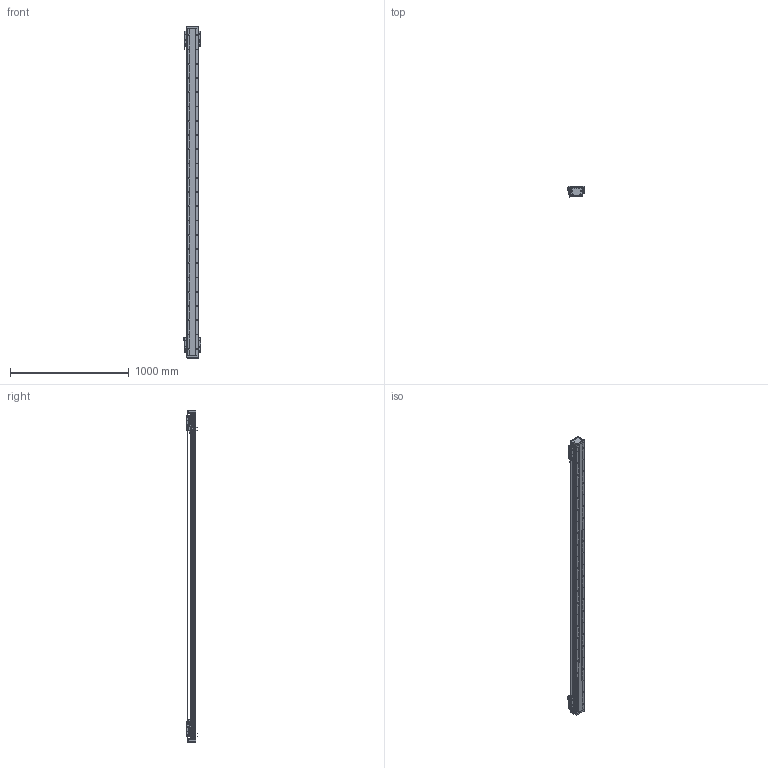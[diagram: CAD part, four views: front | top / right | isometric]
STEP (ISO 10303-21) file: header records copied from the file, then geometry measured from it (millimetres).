
FILE_DESCRIPTION (( 'STEP AP203' ), '1' );
FILE_NAME ('DA-B95-2-B15-T2420-C010-0.2 直线电机.STEP', '2023-05-06T06:39:43', ( '微软用户' ), ( '微软中国' ), 'SwSTEP 2.0', 'SolidWorks 2019', '' );
FILE_SCHEMA (( 'CONFIG_CONTROL_DESIGN' ));
Length unit declared in the file: millimetre
Products named in the file (34): 复件 DKW-GYP-ZJ-00 中间光电感应片^DA-A95-B15-T-C010-0.2-N 直线电机; LMDK-2-R001-V5-L02-C1-F00，0.2M 读数头^DA-A95-B15-T-C010-0.2-N 直线电机_DMA-010-0.2; 66245-BU95-V 幗紩賑怢; PM-T45 光电开关^DA-A95-B15-T-C010-0.2-N 直线电机; IU-BU95-L-00 菁釱_L2760; 复件 复件 18252-0001-002-00 钢带垫块^DA-A95-B15-T-C010-0.2-N 直线电机; 66245-BU95-V-00 珨极趙賑雄怢啣; 复件 六角薄螺母 M3^DA-A95-B15-T-C010-0.2-N 直线电机_GB_FASTENER_NUT_STNAB M3-C; 葩璃 DA95-B15-DP-A-00 菜えA^66245-BU95-V 幗紩賑怢; 复件 DKW-KGZ-ZJ-00 中间光电开关支架^DA-A95-B15-T-C010-0.2-N 直线电机; 葩璃 BKM015-W060-C1-TP-DA-0.2^DA-A95-B15-T-C010-0.2-N 眻盄萇儂; IU-BU95-L 菁釱絳寢; 复件 DA95-MFP-01 密封片^66245-BU95-V 滚珠滑台; 复件 DA95-B15-YB-B-00 压板B^66245-BU95-V 滚珠滑台; DA-B95-2-B15-T2420-C010-0.2 眻盄萇儂; 复件 DA95-HK-GT-00 滑块钢轨^66245-BU95-V-00 一体化滑动台板; 复件 DA95-B15-YB-A-00 压板A^66245-BU95-V 滚珠滑台; 复件 DKW-HXJ-JY-00 缓冲橡胶^DA-A95-B15-T-C010-0.2-N 直线电机; 复件 复件 18252-0001-004-00 钢带端盖^DA-A95-B15-T-C010-0.2-N 直线电机; 复件 66245-BU95-HT-V-01 滑动台板^66245-BU95-V-00 一体化滑动台板; 葩璃 DA95-B15-DP--B-00 菜えB^66245-BU95-V 幗紩賑怢; DA-A95-GYP-00 光电感应片^DA-A95-B15-T-C010-0.2-N 直线电机; 复件 DA95-B15 钢带盖板^DA-A95-B15-T-C010-0.2-N 直线电机; 葩璃 PM-Y45^DA-A95-B15-T-C010-0.2-N 眻盄萇儂; DA95-HXJ-00 缓冲橡胶^DA-A95-B15-T-C010-0.2-N 直线电机; B15 XD-U-02L ｴﾅﾕ､ｳﾟ^DA-A95-B15-T-C010-0.2-N ﾖｱﾏﾟｵ扈銈XD-U-02L; 复件 纯铜油杯 6x6mm^66245-BU95-V 滚珠滑台; 复件 复件 18252-0001-003-00 钢带拉块^DA-A95-B15-T-C010-0.2-N 直线电机; 复件 DA95-DK-00 挡块^66245-BU95-V 滚珠滑台; 复件 DA95-DB-00  挡板^66245-BU95-V 滚珠滑台; 葩璃 BKMA01-W060-TRL^DA-A95-B15-T-C010-0.2-N 眻盄萇儂; 葩璃 DA95-GT-T-00^IU-BU95-L 菁釱絳寢_DA95
Assembly tree (80 placements, depth 4):
  DA-B95-2-B15-T2420-C010-0.2 眻盄萇儂
    IU-BU95-L 菁釱絳寢
      IU-BU95-L-00 菁釱_L2760
      葩璃 DA95-GT-T-00^IU-BU95-L 菁釱絳寢_DA95  x2
    66245-BU95-V 幗紩賑怢
      66245-BU95-V-00 珨极趙賑雄怢啣
        复件 66245-BU95-HT-V-01 滑动台板^66245-BU95-V-00 一体化滑动台板
        复件 DA95-HK-GT-00 滑块钢轨^66245-BU95-V-00 一体化滑动台板  x2
      葩璃 DA95-B15-DP-A-00 菜えA^66245-BU95-V 幗紩賑怢
      复件 DA95-B15-YB-A-00 压板A^66245-BU95-V 滚珠滑台
      复件 DA95-B15-YB-B-00 压板B^66245-BU95-V 滚珠滑台
      复件 DA95-DB-00  挡板^66245-BU95-V 滚珠滑台  x4
      复件 DA95-DK-00 挡块^66245-BU95-V 滚珠滑台  x2
      复件 DA95-MFP-01 密封片^66245-BU95-V 滚珠滑台  x4
      复件 纯铜油杯 6x6mm^66245-BU95-V 滚珠滑台  x2
      葩璃 DA95-B15-DP--B-00 菜えB^66245-BU95-V 幗紩賑怢
    66245-BU95-V 幗紩賑怢
      66245-BU95-V-00 珨极趙賑雄怢啣
        复件 66245-BU95-HT-V-01 滑动台板^66245-BU95-V-00 一体化滑动台板
        复件 DA95-HK-GT-00 滑块钢轨^66245-BU95-V-00 一体化滑动台板  x2
      葩璃 DA95-B15-DP-A-00 菜えA^66245-BU95-V 幗紩賑怢
      复件 DA95-B15-YB-A-00 压板A^66245-BU95-V 滚珠滑台
      复件 DA95-B15-YB-B-00 压板B^66245-BU95-V 滚珠滑台
      复件 DA95-DB-00  挡板^66245-BU95-V 滚珠滑台  x4
      复件 DA95-DK-00 挡块^66245-BU95-V 滚珠滑台  x2
      复件 DA95-MFP-01 密封片^66245-BU95-V 滚珠滑台  x4
      复件 纯铜油杯 6x6mm^66245-BU95-V 滚珠滑台  x2
      葩璃 DA95-B15-DP--B-00 菜えB^66245-BU95-V 幗紩賑怢
    DA-A95-GYP-00 光电感应片^DA-A95-B15-T-C010-0.2-N 直线电机  x2
    LMDK-2-R001-V5-L02-C1-F00，0.2M 读数头^DA-A95-B15-T-C010-0.2-N 直线电机_DMA-010-0.2  x2
    复件 DKW-KGZ-ZJ-00 中间光电开关支架^DA-A95-B15-T-C010-0.2-N 直线电机
    葩璃 PM-Y45^DA-A95-B15-T-C010-0.2-N 眻盄萇儂
    复件 DKW-GYP-ZJ-00 中间光电感应片^DA-A95-B15-T-C010-0.2-N 直线电机
    葩璃 BKM015-W060-C1-TP-DA-0.2^DA-A95-B15-T-C010-0.2-N 眻盄萇儂  x2
    复件 DKW-HXJ-JY-00 缓冲橡胶^DA-A95-B15-T-C010-0.2-N 直线电机  x2
    PM-T45 光电开关^DA-A95-B15-T-C010-0.2-N 直线电机  x4
    B15 XD-U-02L ｴﾅﾕ､ｳﾟ^DA-A95-B15-T-C010-0.2-N ﾖｱﾏﾟｵ扈銈XD-U-02L
    复件 复件 18252-0001-003-00 钢带拉块^DA-A95-B15-T-C010-0.2-N 直线电机  x2
    复件 复件 18252-0001-002-00 钢带垫块^DA-A95-B15-T-C010-0.2-N 直线电机  x2
    复件 复件 18252-0001-004-00 钢带端盖^DA-A95-B15-T-C010-0.2-N 直线电机  x2
    复件 DA95-B15 钢带盖板^DA-A95-B15-T-C010-0.2-N 直线电机
    DA95-HXJ-00 缓冲橡胶^DA-A95-B15-T-C010-0.2-N 直线电机  x4
    葩璃 BKMA01-W060-TRL^DA-A95-B15-T-C010-0.2-N 眻盄萇儂
    复件 六角薄螺母 M3^DA-A95-B15-T-C010-0.2-N 直线电机_GB_FASTENER_NUT_STNAB M3-C  x6
Bounding box: 145.4 x 90.2 x 2796 mm (x, y, z)
Volume: 8966166.3 mm3; surface area: 2978875.6 mm2
Topology: 75 solids, 93 shells, 4308 faces, 12220 edges, 7759 vertices
Faces by surface type: cylinder 2237, plane 1539, cone 464, torus 64, sphere 4
Entity records: 106576 total; most frequent: CARTESIAN_POINT 28238, ORIENTED_EDGE 15798, DIRECTION 15204, EDGE_CURVE 7899, AXIS2_PLACEMENT_3D 5797, VERTEX_POINT 5161, VECTOR 3610, LINE 3610
